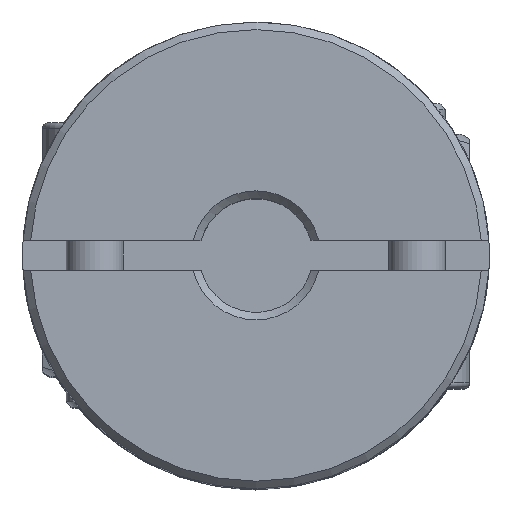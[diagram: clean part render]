
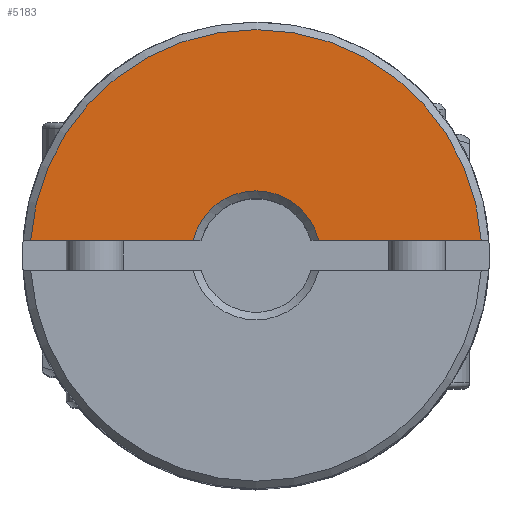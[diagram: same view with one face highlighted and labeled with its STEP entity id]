
A CAD part, top view. The second image highlights one B-rep face of the part: STEP entity #5183.
In plain terms, the highlighted planar face has unit normal (0, 0, 1).
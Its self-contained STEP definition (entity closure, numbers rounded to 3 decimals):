
#3397=CARTESIAN_POINT('',(3.305,0.8,18.2));
#3398=VERTEX_POINT('',#3397);
#3412=CARTESIAN_POINT('',(-3.305,0.8,18.2));
#3413=VERTEX_POINT('',#3412);
#3414=CARTESIAN_POINT('',(0.0,0.0,18.2));
#3415=DIRECTION('',(0.0,0.0,1.0));
#3416=DIRECTION('',(1.0,0.0,0.0));
#3417=AXIS2_PLACEMENT_3D('',#3414,#3415,#3416);
#3418=CIRCLE('',#3417,3.4);
#3419=EDGE_CURVE('',#3398,#3413,#3418,.T.);
#3484=CARTESIAN_POINT('',(-11.873,0.8,18.2));
#3485=VERTEX_POINT('',#3484);
#3486=CARTESIAN_POINT('',(-11.873,0.8,18.2));
#3487=DIRECTION('',(1.0,0.0,0.0));
#3488=VECTOR('',#3487,8.569);
#3489=LINE('',#3486,#3488);
#3490=EDGE_CURVE('',#3485,#3413,#3489,.T.);
#5131=CARTESIAN_POINT('',(11.873,0.8,18.2));
#5132=VERTEX_POINT('',#5131);
#5146=CARTESIAN_POINT('',(3.305,0.8,18.2));
#5147=DIRECTION('',(1.0,0.0,0.0));
#5148=VECTOR('',#5147,8.569);
#5149=LINE('',#5146,#5148);
#5150=EDGE_CURVE('',#3398,#5132,#5149,.T.);
#5166=CARTESIAN_POINT('',(0.,0.,18.2));
#5167=DIRECTION('',(0.0,0.0,1.0));
#5168=DIRECTION('',(1.0,0.0,0.0));
#5169=AXIS2_PLACEMENT_3D('',#5166,#5167,#5168);
#5170=PLANE('',#5169);
#5171=ORIENTED_EDGE('',*,*,#3419,.F.);
#5172=ORIENTED_EDGE('',*,*,#5150,.T.);
#5173=CARTESIAN_POINT('',(0.0,0.0,18.2));
#5174=DIRECTION('',(0.0,0.0,-1.0));
#5175=DIRECTION('',(-1.0,0.0,0.0));
#5176=AXIS2_PLACEMENT_3D('',#5173,#5174,#5175);
#5177=CIRCLE('',#5176,11.9);
#5178=EDGE_CURVE('',#3485,#5132,#5177,.T.);
#5179=ORIENTED_EDGE('',*,*,#5178,.F.);
#5180=ORIENTED_EDGE('',*,*,#3490,.T.);
#5181=EDGE_LOOP('',(#5171,#5172,#5179,#5180));
#5182=FACE_OUTER_BOUND('',#5181,.T.);
#5183=ADVANCED_FACE('',(#5182),#5170,.T.);
